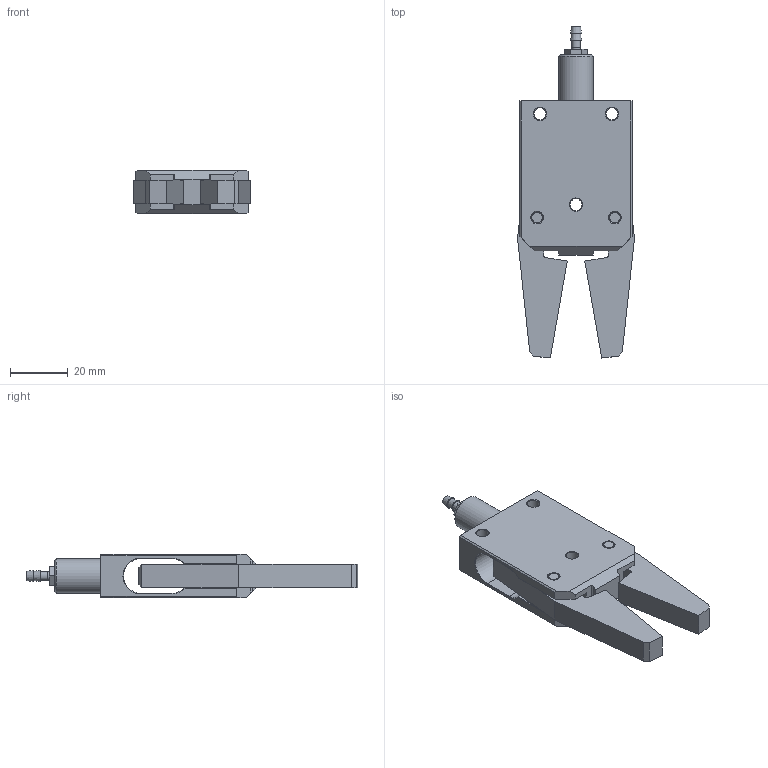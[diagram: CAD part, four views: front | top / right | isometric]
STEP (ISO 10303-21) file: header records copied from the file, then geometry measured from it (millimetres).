
FILE_DESCRIPTION(/* description */ (''),/* implementation_level */ '2;1');
FILE_NAME(/* name */ '_model1.stp',/* time_stamp */ '2023-03-08T09:51:18+08:00',/* author */ (''),/* organization */ (''),/* preprocessor_version */ 'ST-DEVELOPER v16',/* originating_system */ 'SIEMENS PLM Software NX 10.0',/* authorisation */ '');
FILE_SCHEMA (('AUTOMOTIVE_DESIGN { 1 0 10303 214 3 1 1 1 }'));
Length unit declared in the file: millimetre
Products named in the file (1): Admi115498B06i92
Bounding box: 40.57 x 115.22 x 15 mm (x, y, z)
Volume: 29796.8 mm3; surface area: 14699.8 mm2
Topology: 1 solids, 5 shells, 159 faces, 416 edges, 268 vertices
Faces by surface type: plane 101, cylinder 28, cone 28, bspline 2
Full cylindrical faces by diameter (mm): 3 x1, 3.086 x1, 4 x8, 4.2 x3, 12 x1
Entity records: 4568 total; most frequent: CARTESIAN_POINT 834, DIRECTION 756, ORIENTED_EDGE 720, EDGE_CURVE 360, LINE 256, VECTOR 256, AXIS2_PLACEMENT_3D 250, VERTEX_POINT 248
